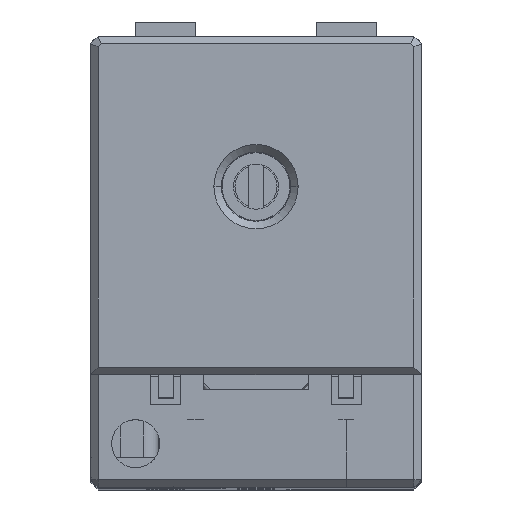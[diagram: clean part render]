
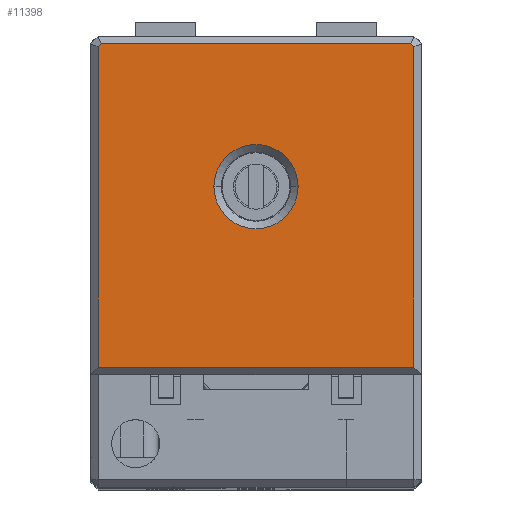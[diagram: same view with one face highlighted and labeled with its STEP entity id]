
A CAD part, top view. The second image highlights one B-rep face of the part: STEP entity #11398.
In plain terms, the highlighted planar face has unit normal (0, 0, 1) as drawn and (0, 0, -1) by its records, which use the part's own axes.
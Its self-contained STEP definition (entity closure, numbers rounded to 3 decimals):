
#65 = ORIENTED_EDGE ( 'NONE', *, *, #6740, .T. ) ;
#1173 = ORIENTED_EDGE ( 'NONE', *, *, #10058, .T. ) ;
#1571 = CARTESIAN_POINT ( 'NONE',  ( 21.5, 22., 0. ) ) ;
#1916 = CARTESIAN_POINT ( 'NONE',  ( 21.293, 22., 0. ) ) ;
#2321 = VECTOR ( 'NONE', #18501, 1000. ) ;
#4014 = VERTEX_POINT ( 'NONE', #45925 ) ;
#4056 = LINE ( 'NONE', #10816, #42737 ) ;
#4669 = LINE ( 'NONE', #16075, #19088 ) ;
#5714 = CARTESIAN_POINT ( 'NONE',  ( 0., 0., 0. ) ) ;
#6564 = EDGE_CURVE ( 'NONE', #4014, #21407, #19147, .T. ) ;
#6740 = EDGE_CURVE ( 'NONE', #35332, #24421, #40868, .T. ) ;
#7978 = CARTESIAN_POINT ( 'NONE',  ( 8.2, 12.5, 0. ) ) ;
#8117 = VECTOR ( 'NONE', #8975, 1000. ) ;
#8432 = AXIS2_PLACEMENT_3D ( 'NONE', #36650, #11263, #21757 ) ;
#8975 = DIRECTION ( 'NONE',  ( 0.707, -0.707, 0. ) ) ;
#9198 = CARTESIAN_POINT ( 'NONE',  ( 21.646, 21.646, 0. ) ) ;
#9806 = ORIENTED_EDGE ( 'NONE', *, *, #42340, .T. ) ;
#10058 = EDGE_CURVE ( 'NONE', #18814, #45519, #36537, .T. ) ;
#10816 = CARTESIAN_POINT ( 'NONE',  ( 0.854, 22.146, 0. ) ) ;
#10828 = LINE ( 'NONE', #25516, #2321 ) ;
#11263 = DIRECTION ( 'NONE',  ( 0., 0., 1. ) ) ;
#11398 = ADVANCED_FACE ( 'NONE', ( #44624, #26697 ), #23414, .T. ) ;
#12512 = VECTOR ( 'NONE', #43621, 1000. ) ;
#12845 = CARTESIAN_POINT ( 'NONE',  ( 0.707, 22., 0. ) ) ;
#12917 = DIRECTION ( 'NONE',  ( -1., 0., 0. ) ) ;
#13901 = DIRECTION ( 'NONE',  ( -1., 0., 0. ) ) ;
#14938 = VERTEX_POINT ( 'NONE', #33358 ) ;
#15805 = DIRECTION ( 'NONE',  ( 1., 0., 0. ) ) ;
#16075 = CARTESIAN_POINT ( 'NONE',  ( 21.5, 0., 0. ) ) ;
#17409 = CARTESIAN_POINT ( 'NONE',  ( 11., 12.5, 0. ) ) ;
#17534 = ORIENTED_EDGE ( 'NONE', *, *, #6564, .T. ) ;
#18501 = DIRECTION ( 'NONE',  ( 0., 1., 0. ) ) ;
#18814 = VERTEX_POINT ( 'NONE', #7978 ) ;
#19088 = VECTOR ( 'NONE', #32873, 1000. ) ;
#19147 = LINE ( 'NONE', #33149, #12512 ) ;
#20220 = AXIS2_PLACEMENT_3D ( 'NONE', #5714, #30640, #12917 ) ;
#21088 = VERTEX_POINT ( 'NONE', #12845 ) ;
#21407 = VERTEX_POINT ( 'NONE', #33562 ) ;
#21757 = DIRECTION ( 'NONE',  ( -1., 0., 0. ) ) ;
#22639 = EDGE_LOOP ( 'NONE', ( #1173, #44532 ) ) ;
#23414 = PLANE ( 'NONE',  #20220 ) ;
#24421 = VERTEX_POINT ( 'NONE', #27777 ) ;
#25516 = CARTESIAN_POINT ( 'NONE',  ( 0.5, 22., 0. ) ) ;
#26697 = FACE_BOUND ( 'NONE', #22639, .T. ) ;
#26727 = EDGE_CURVE ( 'NONE', #24421, #4014, #4669, .T. ) ;
#27777 = CARTESIAN_POINT ( 'NONE',  ( 21.5, 21.793, 0. ) ) ;
#27984 = CARTESIAN_POINT ( 'NONE',  ( 13.8, 12.5, 0. ) ) ;
#28351 = AXIS2_PLACEMENT_3D ( 'NONE', #17409, #31625, #13901 ) ;
#28507 = CIRCLE ( 'NONE', #8432, 2.8 ) ;
#30032 = EDGE_CURVE ( 'NONE', #21088, #35332, #33503, .T. ) ;
#30213 = ORIENTED_EDGE ( 'NONE', *, *, #36662, .T. ) ;
#30640 = DIRECTION ( 'NONE',  ( 0., 0., -1. ) ) ;
#31625 = DIRECTION ( 'NONE',  ( 0., 0., 1. ) ) ;
#32873 = DIRECTION ( 'NONE',  ( 0., -1., 0. ) ) ;
#33149 = CARTESIAN_POINT ( 'NONE',  ( 0., 0.5, 0. ) ) ;
#33358 = CARTESIAN_POINT ( 'NONE',  ( 0.5, 21.793, 0. ) ) ;
#33503 = LINE ( 'NONE', #1571, #34844 ) ;
#33562 = CARTESIAN_POINT ( 'NONE',  ( 0.5, 0.5, 0. ) ) ;
#33932 = ORIENTED_EDGE ( 'NONE', *, *, #26727, .T. ) ;
#34844 = VECTOR ( 'NONE', #15805, 1000. ) ;
#35332 = VERTEX_POINT ( 'NONE', #1916 ) ;
#36537 = CIRCLE ( 'NONE', #28351, 2.8 ) ;
#36650 = CARTESIAN_POINT ( 'NONE',  ( 11., 12.5, 0. ) ) ;
#36662 = EDGE_CURVE ( 'NONE', #21407, #14938, #10828, .T. ) ;
#37385 = EDGE_LOOP ( 'NONE', ( #33932, #17534, #30213, #9806, #43064, #65 ) ) ;
#40390 = EDGE_CURVE ( 'NONE', #45519, #18814, #28507, .T. ) ;
#40868 = LINE ( 'NONE', #9198, #8117 ) ;
#42340 = EDGE_CURVE ( 'NONE', #14938, #21088, #4056, .T. ) ;
#42737 = VECTOR ( 'NONE', #45526, 1000. ) ;
#43064 = ORIENTED_EDGE ( 'NONE', *, *, #30032, .T. ) ;
#43621 = DIRECTION ( 'NONE',  ( -1., 0., 0. ) ) ;
#44532 = ORIENTED_EDGE ( 'NONE', *, *, #40390, .T. ) ;
#44624 = FACE_OUTER_BOUND ( 'NONE', #37385, .T. ) ;
#45519 = VERTEX_POINT ( 'NONE', #27984 ) ;
#45526 = DIRECTION ( 'NONE',  ( 0.707, 0.707, 0. ) ) ;
#45925 = CARTESIAN_POINT ( 'NONE',  ( 21.5, 0.5, 0. ) ) ;
